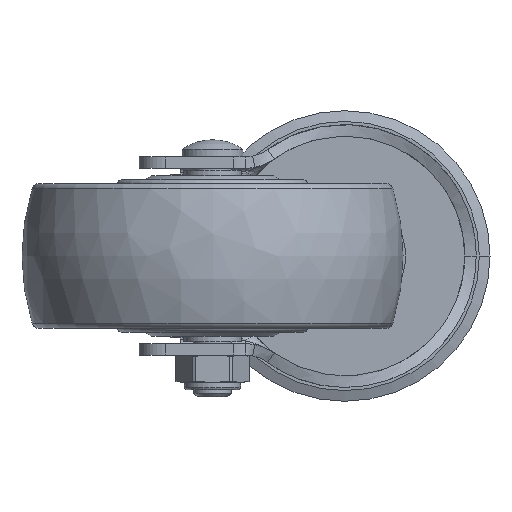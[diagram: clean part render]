
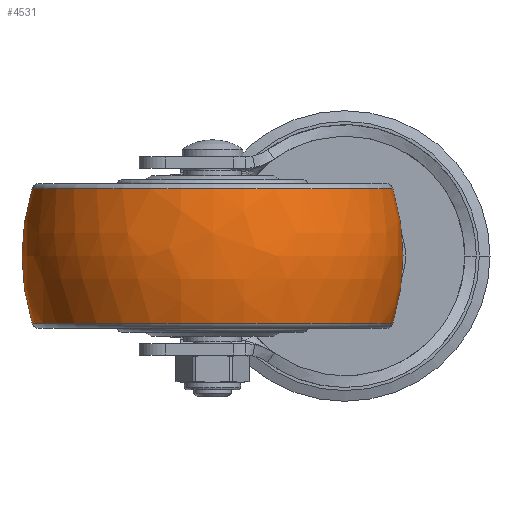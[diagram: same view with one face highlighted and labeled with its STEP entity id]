
A CAD part, front view. The second image highlights one B-rep face of the part: STEP entity #4531.
In plain terms, the highlighted free-form (B-spline) face has degree [3, 3] with [7, 4] control points.
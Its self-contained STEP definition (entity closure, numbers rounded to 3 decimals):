
#3937=CARTESIAN_POINT('',(-24.368,-22.529,0.));
#3938=DIRECTION('',(0.,0.,1.));
#3939=DIRECTION('',(0.293,0.956,0.));
#3940=AXIS2_PLACEMENT_3D('',#3937,#3938,#3939);
#3942=CARTESIAN_POINT('',(-24.368,-2.529,0.));
#3943=DIRECTION('',(0.,0.,-1.));
#3944=DIRECTION('',(0.293,-0.956,0.));
#3945=AXIS2_PLACEMENT_3D('',#3942,#3943,#3944);
#3947=CARTESIAN_POINT('',(-6.782,-12.529,0.));
#3948=DIRECTION('',(-1.,0.,0.));
#3949=DIRECTION('',(0.,1.,0.));
#3950=AXIS2_PLACEMENT_3D('',#3947,#3948,#3949);
#3972=CARTESIAN_POINT('',(-41.954,-12.529,0.));
#3973=DIRECTION('',(-1.,0.,0.));
#3974=DIRECTION('',(0.,1.,0.));
#3975=AXIS2_PLACEMENT_3D('',#3972,#3973,#3974);
#4208=CARTESIAN_POINT('',(-6.782,34.836,0.));
#4210=VERTEX_POINT('',#4208);
#4211=CARTESIAN_POINT('',(-41.954,34.836,0.));
#4212=VERTEX_POINT('',#4211);
#4240=CARTESIAN_POINT('',(-6.782,-59.894,
0.));
#4242=VERTEX_POINT('',#4240);
#4243=CARTESIAN_POINT('',(-41.954,-59.894,
0.));
#4244=VERTEX_POINT('',#4243);
#4493=CARTESIAN_POINT('',(-42.635,-59.587,
2.961));
#4494=CARTESIAN_POINT('',(-30.656,-63.409,
3.201));
#4495=CARTESIAN_POINT('',(-18.08,-63.409,
3.201));
#4496=CARTESIAN_POINT('',(-6.1,-59.587,
2.961));
#4497=CARTESIAN_POINT('',(-42.635,-61.409,
-25.999));
#4498=CARTESIAN_POINT('',(-30.656,-65.379,
-28.11));
#4499=CARTESIAN_POINT('',(-18.08,-65.379,
-28.11));
#4500=CARTESIAN_POINT('',(-6.1,-61.409,
-25.999));
#4501=CARTESIAN_POINT('',(-42.635,-41.546,
-47.152));
#4502=CARTESIAN_POINT('',(-30.656,-43.902,
-50.981));
#4503=CARTESIAN_POINT('',(-18.08,-43.902,
-50.981));
#4504=CARTESIAN_POINT('',(-6.1,-41.546,
-47.152));
#4505=CARTESIAN_POINT('',(-42.635,-12.529,
-47.152));
#4506=CARTESIAN_POINT('',(-30.656,-12.529,
-50.981));
#4507=CARTESIAN_POINT('',(-18.08,-12.529,
-50.981));
#4508=CARTESIAN_POINT('',(-6.1,-12.529,
-47.152));
#4509=CARTESIAN_POINT('',(-42.635,16.488,
-47.152));
#4510=CARTESIAN_POINT('',(-30.656,18.845,
-50.981));
#4511=CARTESIAN_POINT('',(-18.08,18.845,
-50.981));
#4512=CARTESIAN_POINT('',(-6.1,16.488,
-47.152));
#4513=CARTESIAN_POINT('',(-42.635,36.352,
-25.999));
#4514=CARTESIAN_POINT('',(-30.656,40.321,
-28.11));
#4515=CARTESIAN_POINT('',(-18.08,40.321,
-28.11));
#4516=CARTESIAN_POINT('',(-6.1,36.352,
-25.999));
#4517=CARTESIAN_POINT('',(-42.635,34.53,2.961));
#4518=CARTESIAN_POINT('',(-30.656,38.351,3.201));
#4519=CARTESIAN_POINT('',(-18.08,38.351,3.201));
#4520=CARTESIAN_POINT('',(-6.1,34.53,2.961));
#4521=(BOUNDED_SURFACE()B_SPLINE_SURFACE(3,3,((#4493,#4494,#4495,#4496),(#4497,
#4498,#4499,#4500),(#4501,#4502,#4503,#4504),(#4505,#4506,#4507,#4508),(#4509,
#4510,#4511,#4512),(#4513,#4514,#4515,#4516),(#4517,#4518,#4519,#4520)),
.UNSPECIFIED.,.F.,.F.,.F.)B_SPLINE_SURFACE_WITH_KNOTS((4,3,4),(4,4),(0.,1.,
2.),(0.,1.),.UNSPECIFIED.)GEOMETRIC_REPRESENTATION_ITEM()RATIONAL_B_SPLINE_SURFACE(((1.216,1.178,1.178,1.216),(
0.96,0.93,0.93,0.96),(
0.96,0.93,0.93,0.96),(
1.216,1.178,1.178,1.216),(
0.96,0.93,0.93,0.96),(
0.96,0.93,0.93,0.96),(
1.216,1.178,1.178,1.216)))REPRESENTATION_ITEM('')SURFACE());
#4523=ORIENTED_EDGE('',*,*,#4522,.T.);
#4525=ORIENTED_EDGE('',*,*,#4524,.T.);
#4527=ORIENTED_EDGE('',*,*,#4526,.F.);
#4528=ORIENTED_EDGE('',*,*,#4486,.F.);
#4529=EDGE_LOOP('',(#4523,#4525,#4527,#4528));
#4530=FACE_OUTER_BOUND('',#4529,.F.);
#3941=CIRCLE('',#3940,60.);
#3946=CIRCLE('',#3945,60.);
#3951=CIRCLE('',#3950,47.365);
#3976=CIRCLE('',#3975,47.365);
#4486=EDGE_CURVE('',#4210,#4242,#3951,.T.);
#4522=EDGE_CURVE('',#4210,#4212,#3941,.T.);
#4524=EDGE_CURVE('',#4212,#4244,#3976,.T.);
#4526=EDGE_CURVE('',#4242,#4244,#3946,.T.);
#4531=ADVANCED_FACE('',(#4530),#4521,.T.);
